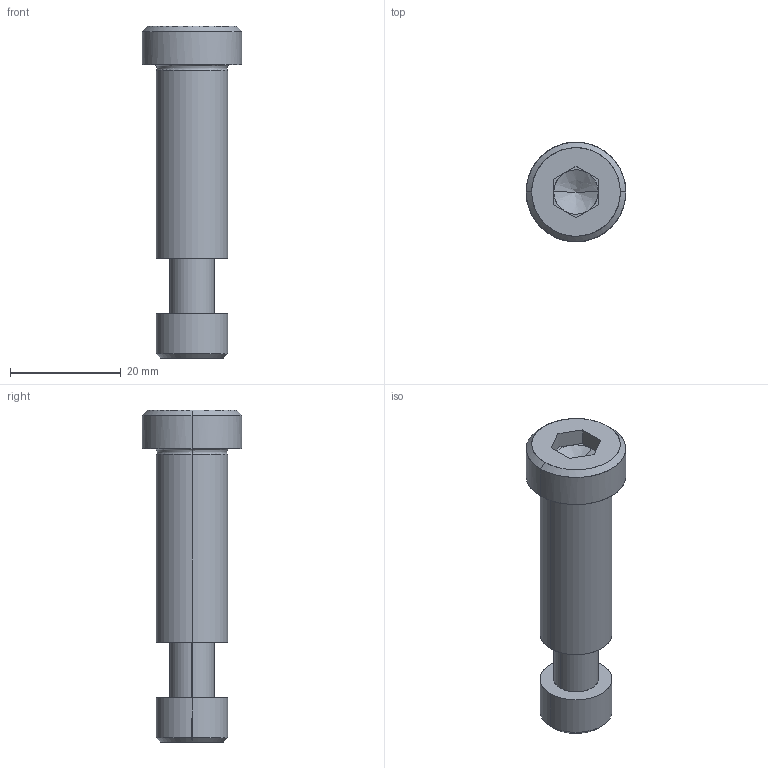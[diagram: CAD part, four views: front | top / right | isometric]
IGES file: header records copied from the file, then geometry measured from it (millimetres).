
Global section: file name: E:\UnigraphicsGraphicData\MISUMI_PRESS-PARTS\IGES\3d_sbtc13-35_05092_r00.igs; native system: NX V5.0; preprocessor: UGS NX IGES V5.0; author: MISUMI; date: 20110105.162444; units: millimetre
Bounding box: 18 x 18 x 60 mm (x, y, z)
Surface area: 4088.6 mm2 (no closed solid volume)
Topology: 0 solids, 0 shells, 52 faces, 286 edges, 282 vertices
Faces by surface type: bspline 52
